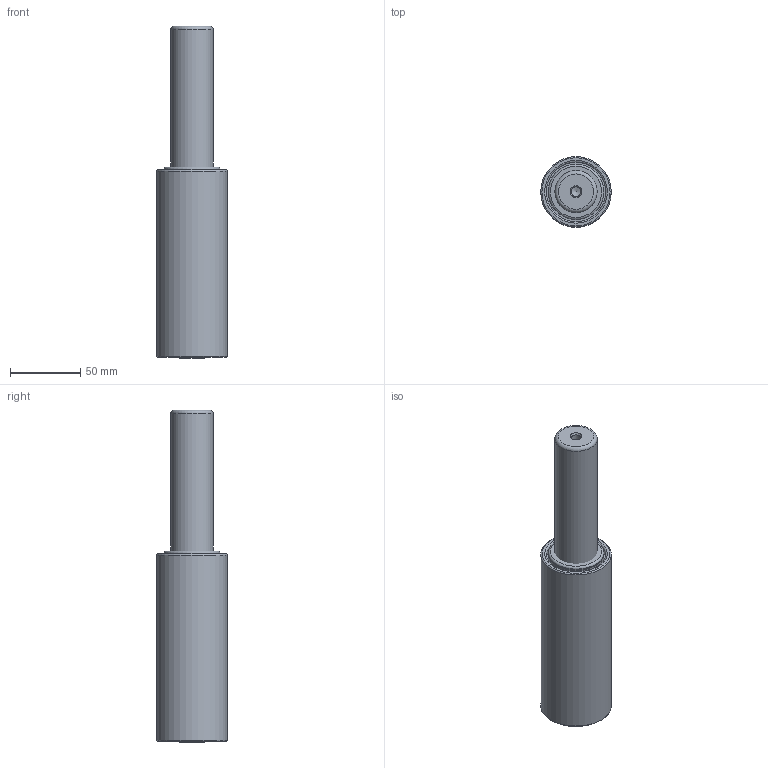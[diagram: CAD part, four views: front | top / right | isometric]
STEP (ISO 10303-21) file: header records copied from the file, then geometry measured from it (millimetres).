
FILE_DESCRIPTION(/* description */ ('Unknown'),/* implementation_level */ '2;1');
FILE_NAME(/* name */ 'NML50-100AE',/* time_stamp */ '2024-12-04T17:07:39+01:00',/* author */ ('Unknown'),/* organization */ ('Unknown'),/* preprocessor_version */ 'ST-DEVELOPER v19.4',/* originating_system */ 'Solid Edge',/* authorisation */ 'Unknown');
FILE_SCHEMA (('AUTOMOTIVE_DESIGN {1 0 10303 214 3 1 1}'));
Length unit declared in the file: millimetre
Products named in the file (7): AM00050AE.MASTER.00; 41NML00050100A.00; 42NML00050100A.00; 54NML00050AH.00_oa_0; 43NML00050AH.00; 52NML00063A.00; 50GE11A.00
Assembly tree (6 placements, depth 3):
  AM00050AE.MASTER.00
    41NML00050100A.00
    42NML00050100A.00
    54NML00050AH.00_oa_0
      43NML00050AH.00
    52NML00063A.00
    50GE11A.00
Bounding box: 50 x 50 x 235.6 mm (x, y, z)
Volume: 210789.3 mm3; surface area: 66733.3 mm2
Topology: 6 solids, 6 shells, 59 faces, 112 edges, 73 vertices
Faces by surface type: cylinder 22, plane 21, torus 10, cone 6
Full cylindrical faces by diameter (mm): 6.8 x2, 8.5 x2, 11 x1, 12 x1, 15 x2, 18 x3, 30 x1, 36 x1, 38.6 x1, 39.4 x2, 41.8 x1, 42 x2, 42.05 x1, 50 x1
Entity records: 1490 total; most frequent: DIRECTION 242, CARTESIAN_POINT 203, ORIENTED_EDGE 120, AXIS2_PLACEMENT_3D 120, FACE_BOUND 108, EDGE_LOOP 107, EDGE_CURVE 60, ADVANCED_FACE 59
